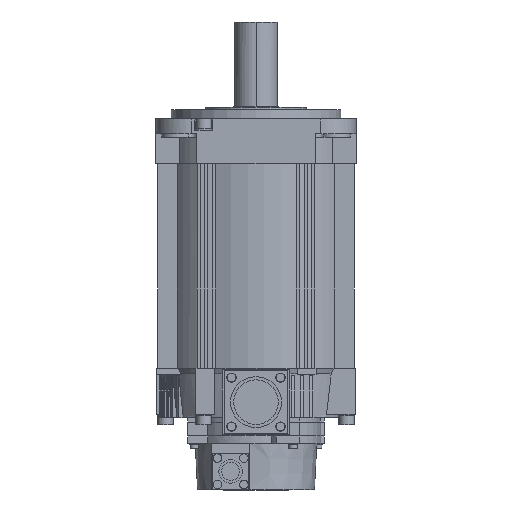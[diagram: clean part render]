
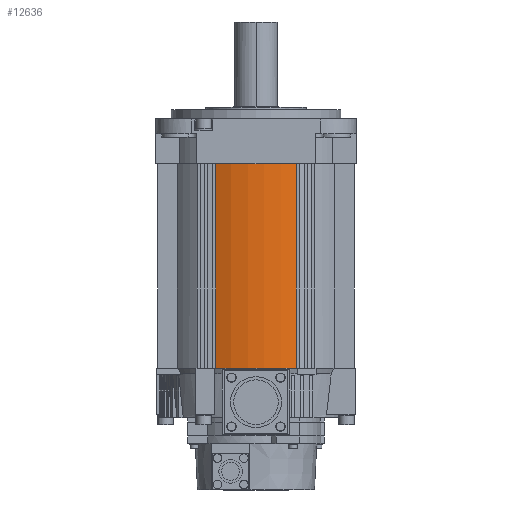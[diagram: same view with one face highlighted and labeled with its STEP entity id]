
A CAD part, front view. The second image highlights one B-rep face of the part: STEP entity #12636.
In plain terms, the highlighted cylindrical face has radius 64 mm (diameter 128 mm), a partial arc.
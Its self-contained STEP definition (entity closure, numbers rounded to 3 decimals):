
#22 = CARTESIAN_POINT ( 'NONE',  ( -26.3, -58.346, -29. ) ) ;
#24 = DIRECTION ( 'NONE',  ( 0., 0., 1. ) ) ;
#25 = VECTOR ( 'NONE', #24, 1000. ) ;
#26 = CARTESIAN_POINT ( 'NONE',  ( -26.3, -58.346, -343.019 ) ) ;
#58 = CARTESIAN_POINT ( 'NONE',  ( 0., 0., -29. ) ) ;
#60 = CARTESIAN_POINT ( 'NONE',  ( 26.3, -58.346, -29. ) ) ;
#61 = DIRECTION ( 'NONE',  ( 0., 0., -1. ) ) ;
#62 = VECTOR ( 'NONE', #61, 1000. ) ;
#63 = CARTESIAN_POINT ( 'NONE',  ( 26.3, -58.346, -343.019 ) ) ;
#64 = LINE ( 'NONE', #63, #62 ) ;
#106 = DIRECTION ( 'NONE',  ( 1., 0., 0. ) ) ;
#107 = DIRECTION ( 'NONE',  ( 0., 0., 1. ) ) ;
#108 = AXIS2_PLACEMENT_3D ( 'NONE', #58, #107, #106 ) ;
#109 = CIRCLE ( 'NONE', #108, 64. ) ;
#12076 = VERTEX_POINT ( 'NONE', #18349 ) ;
#12082 = EDGE_CURVE ( 'NONE', #12076, #12083, #18341, .T. ) ;
#12083 = VERTEX_POINT ( 'NONE', #18336 ) ;
#12636 = ADVANCED_FACE ( 'NONE', ( #23144 ), #23143, .T. ) ;
#12638 = EDGE_LOOP ( 'NONE', ( #12640, #12646, #12649, #12685 ) ) ;
#12640 = ORIENTED_EDGE ( 'NONE', *, *, #12642, .F. ) ;
#12642 = EDGE_CURVE ( 'NONE', #12083, #12644, #23135, .T. ) ;
#12644 = VERTEX_POINT ( 'NONE', #22 ) ;
#12646 = ORIENTED_EDGE ( 'NONE', *, *, #12082, .F. ) ;
#12649 = ORIENTED_EDGE ( 'NONE', *, *, #12681, .F. ) ;
#12681 = EDGE_CURVE ( 'NONE', #12683, #12076, #64, .T. ) ;
#12683 = VERTEX_POINT ( 'NONE', #60 ) ;
#12685 = ORIENTED_EDGE ( 'NONE', *, *, #12687, .F. ) ;
#12687 = EDGE_CURVE ( 'NONE', #12644, #12683, #109, .T. ) ;
#18336 = CARTESIAN_POINT ( 'NONE',  ( -26.3, -58.346, -162. ) ) ;
#18337 = DIRECTION ( 'NONE',  ( 1., 0., 0. ) ) ;
#18338 = DIRECTION ( 'NONE',  ( 0., 0., -1. ) ) ;
#18339 = CARTESIAN_POINT ( 'NONE',  ( 0., 0., -162. ) ) ;
#18340 = AXIS2_PLACEMENT_3D ( 'NONE', #18339, #18338, #18337 ) ;
#18341 = CIRCLE ( 'NONE', #18340, 64. ) ;
#18349 = CARTESIAN_POINT ( 'NONE',  ( 26.3, -58.346, -162. ) ) ;
#23135 = LINE ( 'NONE', #26, #25 ) ;
#23138 = DIRECTION ( 'NONE',  ( 1., 0., 0. ) ) ;
#23139 = DIRECTION ( 'NONE',  ( 0., 0., 1. ) ) ;
#23140 = CARTESIAN_POINT ( 'NONE',  ( 0., 0., -343.019 ) ) ;
#23141 = AXIS2_PLACEMENT_3D ( 'NONE', #23140, #23139, #23138 ) ;
#23143 = CYLINDRICAL_SURFACE ( 'NONE', #23141, 64. ) ;
#23144 = FACE_OUTER_BOUND ( 'NONE', #12638, .T. ) ;
